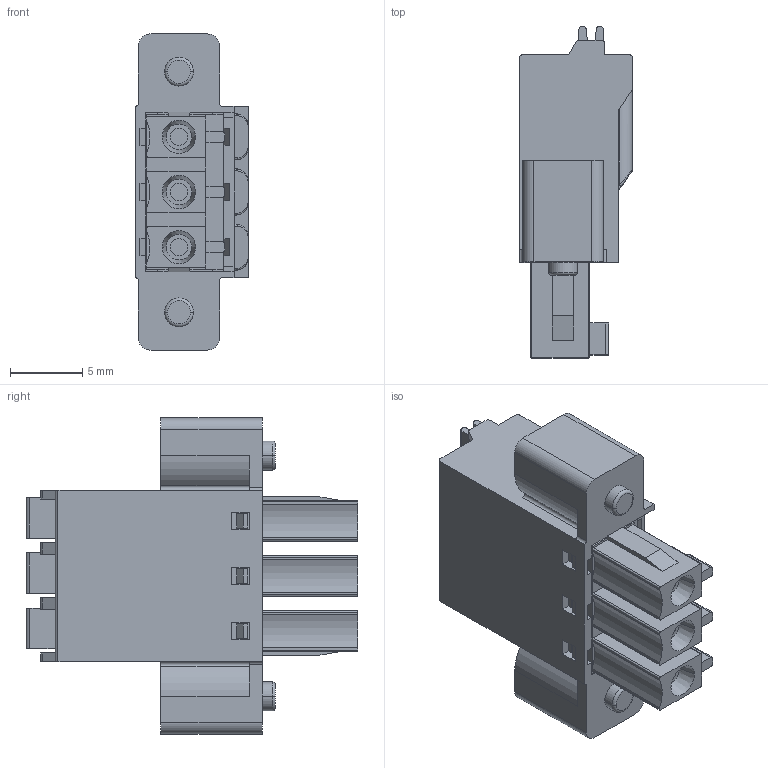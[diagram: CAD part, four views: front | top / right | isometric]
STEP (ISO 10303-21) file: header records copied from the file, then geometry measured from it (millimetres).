
FILE_DESCRIPTION((''),'2;1');
FILE_NAME('33','2019-04-11T',('zhenbing.lai'),(''),'CREO PARAMETRIC BY PTC INC, 2016260','CREO PARAMETRIC BY PTC INC, 2016260','');
FILE_SCHEMA(('CONFIG_CONTROL_DESIGN'));
Length unit declared in the file: millimetre
Products named in the file (1): 33
Bounding box: 7.8 x 22.9 x 21.82 mm (x, y, z)
Volume: 1799.7 mm3; surface area: 1747.8 mm2
Topology: 1 solids, 1 shells, 495 faces, 1362 edges, 893 vertices
Faces by surface type: plane 351, cylinder 108, cone 18, bspline 10, torus 8
Entity records: 16301 total; most frequent: CARTESIAN_POINT 3522, ORIENTED_EDGE 2724, DIRECTION 2556, EDGE_CURVE 1362, VECTOR 1044, LINE 1044, VERTEX_POINT 893, AXIS2_PLACEMENT_3D 756
